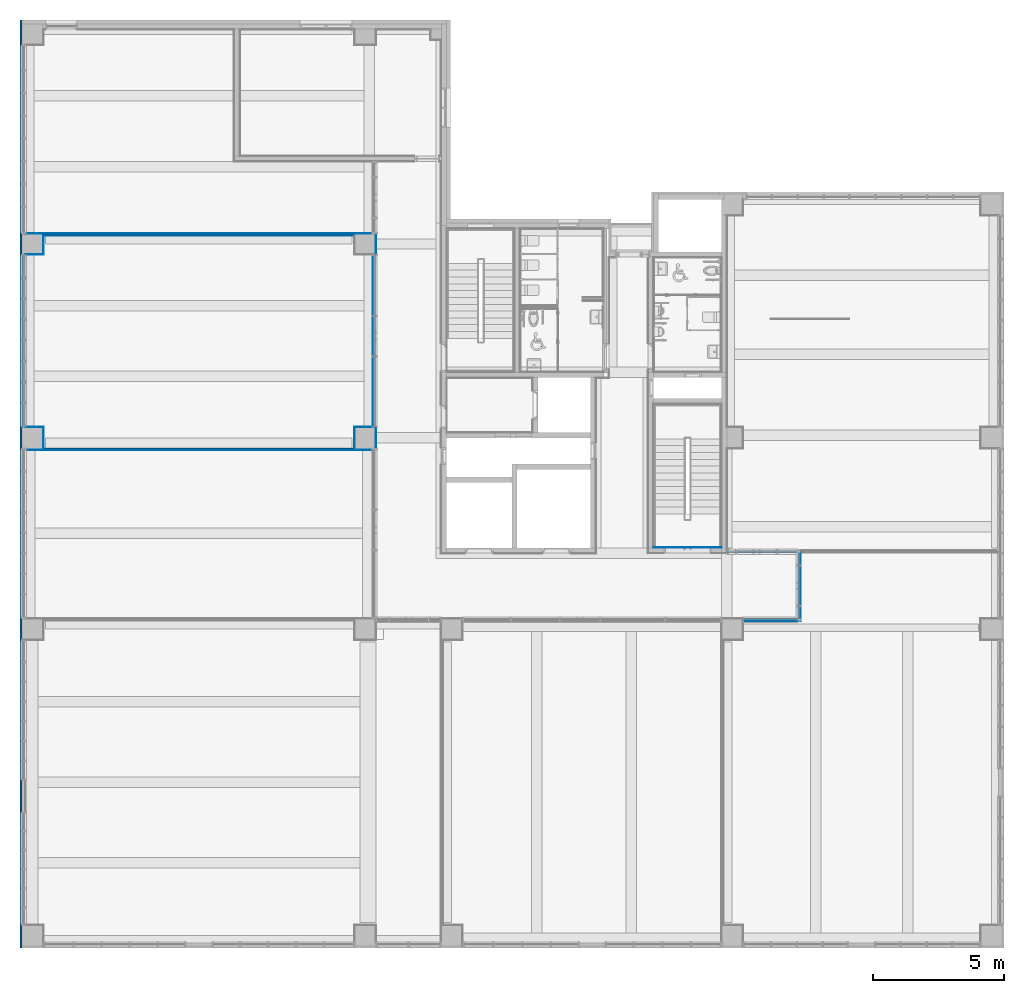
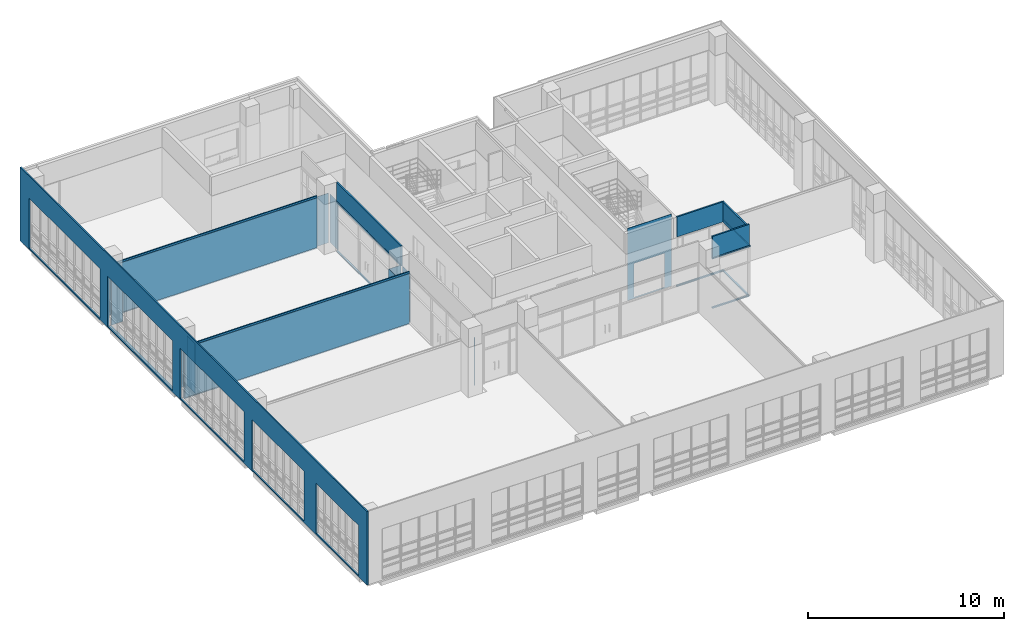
# One storey, part 49 of 74: 22 walls, 23 openings.
"""IFC2X3 building model written with IfcOpenShell, lengths in millimetres."""

from ifc_helpers import new_model, entity, si_unit, converted_unit, derived_unit, direction, frame, frame_2d, origin, origin_2d_with_axis, place, context, subcontext, project, spatial, polyline, rectangle, extrude, clip, bounded_halfspace, material, layer, layer_set, layer_usage, type_object, element, save


model = new_model("IFC2X3")

# Units and contexts
model_context = context("Model", 3, precision=0.01, world=origin(), true_north=direction((6.123031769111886e-17, 1.0)))
body_context = subcontext(model_context, "Body", "Model", "MODEL_VIEW")
ifc_project = project(units=[si_unit("LENGTHUNIT", "METRE", prefix="MILLI"), si_unit("AREAUNIT", "SQUARE_METRE"), si_unit("VOLUMEUNIT", "CUBIC_METRE"), converted_unit("PLANEANGLEUNIT", "DEGREE", entity("IfcRatioMeasure", 0.017453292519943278), si_unit("PLANEANGLEUNIT", "RADIAN"), dimensions=[0, 0, 0, 0, 0, 0, 0]), si_unit("MASSUNIT", "GRAM", prefix="KILO"), derived_unit("MASSDENSITYUNIT", [(si_unit("MASSUNIT", "GRAM", prefix="KILO"), 1), (si_unit("LENGTHUNIT", "METRE"), -3)]), derived_unit("MOMENTOFINERTIAUNIT", [(si_unit("LENGTHUNIT", "METRE"), 4)]), si_unit("TIMEUNIT", "SECOND"), si_unit("FREQUENCYUNIT", "HERTZ"), si_unit("THERMODYNAMICTEMPERATUREUNIT", "DEGREE_CELSIUS"), derived_unit("THERMALTRANSMITTANCEUNIT", [(si_unit("MASSUNIT", "GRAM", prefix="KILO"), 1), (si_unit("THERMODYNAMICTEMPERATUREUNIT", "KELVIN"), -1), (si_unit("TIMEUNIT", "SECOND"), -3)]), derived_unit("VOLUMETRICFLOWRATEUNIT", [(si_unit("LENGTHUNIT", "METRE"), 3), (si_unit("TIMEUNIT", "SECOND"), -1)]), derived_unit("MASSFLOWRATEUNIT", [(si_unit("MASSUNIT", "GRAM", prefix="KILO"), 1), (si_unit("TIMEUNIT", "SECOND"), -1)]), derived_unit("ROTATIONALFREQUENCYUNIT", [(si_unit("TIMEUNIT", "SECOND"), -1)]), si_unit("ELECTRICCURRENTUNIT", "AMPERE"), si_unit("ELECTRICVOLTAGEUNIT", "VOLT"), si_unit("POWERUNIT", "WATT"), si_unit("FORCEUNIT", "NEWTON", prefix="KILO"), si_unit("ILLUMINANCEUNIT", "LUX"), si_unit("LUMINOUSFLUXUNIT", "LUMEN"), si_unit("LUMINOUSINTENSITYUNIT", "CANDELA"), derived_unit("USERDEFINED", [(si_unit("MASSUNIT", "GRAM", prefix="KILO"), -1), (si_unit("LENGTHUNIT", "METRE"), -2), (si_unit("TIMEUNIT", "SECOND"), 3), (si_unit("LUMINOUSFLUXUNIT", "LUMEN"), 1)]), derived_unit("SOUNDPOWERUNIT", [(si_unit("MASSUNIT", "GRAM", prefix="KILO"), 1), (si_unit("LENGTHUNIT", "METRE"), 2), (si_unit("TIMEUNIT", "SECOND"), -3)]), derived_unit("SOUNDPRESSUREUNIT", [(si_unit("MASSUNIT", "GRAM", prefix="KILO"), 1), (si_unit("LENGTHUNIT", "METRE"), -1), (si_unit("TIMEUNIT", "SECOND"), -2)]), derived_unit("LINEARVELOCITYUNIT", [(si_unit("LENGTHUNIT", "METRE"), 1), (si_unit("TIMEUNIT", "SECOND"), -1)]), si_unit("PRESSUREUNIT", "PASCAL"), derived_unit("USERDEFINED", [(si_unit("LENGTHUNIT", "METRE"), -2), (si_unit("MASSUNIT", "GRAM", prefix="KILO"), 1), (si_unit("TIMEUNIT", "SECOND"), -2)]), derived_unit("LINEARFORCEUNIT", [(si_unit("MASSUNIT", "GRAM", prefix="KILO"), 1), (si_unit("LENGTHUNIT", "METRE"), 1), (si_unit("TIMEUNIT", "SECOND"), -2), (si_unit("LENGTHUNIT", "METRE"), -1)]), derived_unit("PLANARFORCEUNIT", [(si_unit("MASSUNIT", "GRAM", prefix="KILO"), 1), (si_unit("LENGTHUNIT", "METRE"), 1), (si_unit("TIMEUNIT", "SECOND"), -2), (si_unit("LENGTHUNIT", "METRE"), -2)])], contexts=[model_context])

# Site, building, storey
site_placement = place(None, frame((-14167.972527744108, -657.2125860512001, 0.0)))
site = spatial("IfcSite", under=ifc_project, at=site_placement, Name="Default", CompositionType="ELEMENT")
building_placement = place(site_placement, origin())
building = spatial("IfcBuilding", under=site, at=building_placement, Name="Sample Building", CompositionType="ELEMENT")
storey_placement = place(building_placement, frame((0.0, 0.0, 4800.0)))
storey = spatial("IfcBuildingStorey", under=building, at=storey_placement, Name="지상 2층", CompositionType="ELEMENT", Elevation=4800.000000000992)

# Wall, openings
ifc_material_1 = material(Name="KBIMS-화강석 잔다듬")
ifc_layer_1 = layer(ifc_material_1, 80.0)
ifc_layer_set_1 = layer_set([ifc_layer_1], Name="기본 벽:WA313-화강석잔다듬 벽 (30, 건식50) 80mm")
ifc_layer_usage_1 = layer_usage(ifc_layer_set_1, "AXIS2", "POSITIVE", -40.0)
wall_type_1 = type_object("IfcWallType", Name="기본 벽:WA313-화강석잔다듬 벽 (30, 건식50) 80mm", PredefinedType="STANDARD", material=ifc_layer_set_1)
wall_1_placement = place(storey_placement, frame((14027.955105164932, 35907.21229514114, -1.9340006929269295e-09), z_axis=(0.0, 0.0, 1.0), x_axis=(0.0, -1.0, 0.0)))
wall_1 = element("IfcWallStandardCase", 1, at=wall_1_placement, inside=storey, type_object=wall_type_1, material=ifc_layer_usage_1, Name="기본 벽:WA313-화강석잔다듬 벽 (30, 건식50) 80mm", ObjectType="기본 벽:WA313-화강석잔다듬 벽 (30, 건식50) 80mm", context=body_context, shape_type="SweptSolid", body=[
    extrude(rectangle(XDim=35430.00009999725, YDim=79.99999999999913, at=frame_2d((17715.000049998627, 6.217248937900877e-13), x_axis=(-1.0, 0.0))), origin(), (0.0, 0.0, 1.0), 4580.0000000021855),
])
opening_1_placement = place(wall_1_placement, origin())
element("IfcOpeningElement", 2, at=opening_1_placement, cuts=wall_1, Name="기본 벽:WA313-화강석잔다듬 벽 (30, 건식50) 80mm", ObjectType="Opening", context=body_context, shape_type="SweptSolid", body=[
    extrude(rectangle(XDim=3120.0000000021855, YDim=7209.999999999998, at=frame_2d((-5.684341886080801e-13, 0.0), x_axis=(1.0, 0.0))), frame((4545.0000199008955, -192.39999999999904, 1640.0), z_axis=(0.0, 1.0, 0.0), x_axis=(0.0, 0.0, 1.0)), (0.0, 0.0, 1.0), 384.79999999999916),
])
opening_2_placement = place(wall_1_placement, origin())
element("IfcOpeningElement", 3, at=opening_2_placement, cuts=wall_1, Name="기본 벽:WA313-화강석잔다듬 벽 (30, 건식50) 80mm", ObjectType="Opening", context=body_context, shape_type="SweptSolid", body=[
    extrude(rectangle(XDim=3120.0000000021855, YDim=6600.000000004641, at=frame_2d((-5.684341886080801e-13, 0.0), x_axis=(1.0, 0.0))), frame((12250.017403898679, -192.3999999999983, 1640.0), z_axis=(0.0, 1.0, 0.0), x_axis=(0.0, 0.0, 1.0)), (0.0, 0.0, 1.0), 384.79999999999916),
])
opening_3_placement = place(wall_1_placement, origin())
element("IfcOpeningElement", 4, at=opening_3_placement, cuts=wall_1, Name="기본 벽:WA313-화강석잔다듬 벽 (30, 건식50) 80mm", ObjectType="Opening", context=body_context, shape_type="SweptSolid", body=[
    extrude(rectangle(XDim=3120.0000000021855, YDim=6500.0, at=frame_2d((-5.684341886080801e-13, -2.0463630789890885e-12), x_axis=(1.0, 0.0))), frame((19600.0, -192.40000000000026, 1640.0), z_axis=(0.0, 1.0, 0.0), x_axis=(0.0, 0.0, 1.0)), (0.0, 0.0, 1.0), 384.79999999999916),
])
opening_4_placement = place(wall_1_placement, origin())
element("IfcOpeningElement", 5, at=opening_4_placement, cuts=wall_1, Name="기본 벽:WA313-화강석잔다듬 벽 (30, 건식50) 80mm", ObjectType="Opening", context=body_context, shape_type="SweptSolid", body=[
    extrude(rectangle(XDim=3120.0000000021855, YDim=5357.000032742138, at=frame_2d((-5.684341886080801e-13, 0.0), x_axis=(1.0, 0.0))), frame((26346.50000352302, -192.39999999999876, 1640.0), z_axis=(0.0, 1.0, 0.0), x_axis=(0.0, 0.0, 1.0)), (0.0, 0.0, 1.0), 384.79999999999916),
])
opening_5_placement = place(wall_1_placement, origin())
element("IfcOpeningElement", 6, at=opening_5_placement, cuts=wall_1, Name="기본 벽:WA313-화강석잔다듬 벽 (30, 건식50) 80mm", ObjectType="Opening", context=body_context, shape_type="SweptSolid", body=[
    extrude(rectangle(XDim=3120.0000000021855, YDim=4322.746367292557, at=frame_2d((-5.684341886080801e-13, 0.0), x_axis=(1.0, 0.0))), frame((32389.11081451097, -192.40000000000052, 1640.0), z_axis=(0.0, 1.0, 0.0), x_axis=(0.0, 0.0, 1.0)), (0.0, 0.0, 1.0), 384.79999999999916),
])

# Walls
ifc_material_2 = material(Name="KBIMS-DRY WALL")
ifc_layer_2 = layer(ifc_material_2, 12.5)
ifc_material_3 = material(Name="KBIMS-경량철골벽틀")
ifc_layer_3 = layer(ifc_material_3, 50.0)
ifc_layer_set_2 = layer_set([ifc_layer_2, ifc_layer_3], Name="기본 벽:WA731-DRY WALL(C50, GS12.5mm) (1겹한면, GW50mm) 62.5mm")
ifc_layer_usage_2 = layer_usage(ifc_layer_set_2, "AXIS2", "NEGATIVE", 31.250000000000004)
wall_type_2 = type_object("IfcWallType", Name="기본 벽:WA731-DRY WALL(C50, GS12.5mm) (1겹한면, GW50mm) 62.5mm", PredefinedType="STANDARD", material=ifc_layer_set_2)
wall_2_placement = place(storey_placement, frame((14867.972454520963, 27725.962586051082, -1.9334592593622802e-09)))
element("IfcWallStandardCase", 7, at=wall_2_placement, inside=storey, type_object=wall_type_2, material=ifc_layer_usage_2, Name="기본 벽:WA731-DRY WALL(C50, GS12.5mm) (1겹한면, GW50mm) 62.5mm", ObjectType="기본 벽:WA731-DRY WALL(C50, GS12.5mm) (1겹한면, GW50mm) 62.5mm", context=body_context, shape_type="SweptSolid", body=[
    extrude(rectangle(XDim=11900.000036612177, YDim=62.49999999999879, at=frame_2d((5950.000018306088, 2.1653789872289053e-12), x_axis=(-1.0, 0.0))), origin(), (0.0, 0.0, 1.0), 3300.000000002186),
])
ifc_layer_usage_3 = layer_usage(ifc_layer_set_2, "AXIS2", "NEGATIVE", 31.250000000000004)
wall_3_placement = place(storey_placement, frame((14192.972570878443, 19525.927624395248, -1.9334592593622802e-09)))
element("IfcWallStandardCase", 8, at=wall_3_placement, inside=storey, type_object=wall_type_2, material=ifc_layer_usage_3, Name="기본 벽:WA731-DRY WALL(C50, GS12.5mm) (1겹한면, GW50mm) 62.5mm", ObjectType="기본 벽:WA731-DRY WALL(C50, GS12.5mm) (1겹한면, GW50mm) 62.5mm", context=body_context, shape_type="SweptSolid", body=[
    extrude(rectangle(XDim=13284.99992025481, YDim=62.499999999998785, at=frame_2d((6642.499960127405, 1.1866063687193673e-12), x_axis=(-1.0, 0.0))), origin(), (0.0, 0.0, 1.0), 3300.000000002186),
])

# Wall, openings
ifc_material_4 = material(Name="KBIMS-시멘트 벽돌")
ifc_layer_4 = layer(ifc_material_4, 90.0)
ifc_layer_set_3 = layer_set([ifc_layer_4], Name="기본 벽:WA211-시멘트벽돌(일반) 벽 (0.5B) 90mm")
ifc_layer_usage_4 = layer_usage(ifc_layer_set_3, "AXIS2", "NEGATIVE", 45.0)
wall_type_3 = type_object("IfcWallType", Name="기본 벽:WA211-시멘트벽돌(일반) 벽 (0.5B) 90mm", PredefinedType="STANDARD", material=ifc_layer_set_3)
wall_4_placement = place(storey_placement, frame((27522.955105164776, 26957.21230799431, -1.9340006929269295e-09), z_axis=(0.0, 0.0, 1.0), x_axis=(0.0, -1.0, 0.0)))
wall_4 = element("IfcWallStandardCase", 9, at=wall_4_placement, inside=storey, type_object=wall_type_3, material=ifc_layer_usage_4, Name="기본 벽:WA211-시멘트벽돌(일반) 벽 (0.5B) 90mm", ObjectType="기본 벽:WA211-시멘트벽돌(일반) 벽 (0.5B) 90mm", context=body_context, shape_type="Clipping", body=[
    clip(extrude(rectangle(XDim=6599.999999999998, YDim=90.0000000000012, at=frame_2d((3299.999999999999, -1.9682033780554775e-12), x_axis=(-1.0, 0.0))), origin(), (0.0, 0.0, 1.0), 4350.000000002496), bounded_halfspace(frame((0.0, -45.0, 4350.0), z_axis=(0.0, 0.0, -1.0), x_axis=(0.0, 1.0, 0.0)), True, frame((0.0, -45.0, 4350.0), z_axis=(0.0, 0.0, -1.0), x_axis=(0.0, 1.0, 0.0)), polyline([(0.0, 0.0), (27432.0, 0.0), (27432.0, 2011680.0), (-2.6400300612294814e-09, 2011680.0), (0.0, 0.0)]))),
])
opening_6_placement = place(wall_4_placement, origin())
element("IfcOpeningElement", 10, at=opening_6_placement, cuts=wall_4, Name="기본 벽:WA211-시멘트벽돌(일반) 벽 (0.5B) 90mm", ObjectType="Opening", context=body_context, shape_type="SweptSolid", body=[
    extrude(rectangle(XDim=3020.000000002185, YDim=6599.999999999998, at=origin_2d_with_axis()), frame((3300.0, -197.4000000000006, 1590.0), z_axis=(0.0, 1.0, 0.0), x_axis=(0.0, 0.0, 1.0)), (0.0, 0.0, 1.0), 394.8000000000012),
])
opening_7_placement = place(wall_4_placement, origin())
element("IfcOpeningElement", 11, at=opening_7_placement, cuts=wall_4, Name="기본 벽:WA211-시멘트벽돌(일반) 벽 (0.5B) 90mm", ObjectType="Opening", context=body_context, shape_type="SweptSolid", body=[
    extrude(rectangle(XDim=3020.000000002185, YDim=6500.0, at=frame_2d((0.0, 2.0463630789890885e-12), x_axis=(1.0, 0.0))), frame((10650.0, -197.40000000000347, 1590.0), z_axis=(0.0, 1.0, 0.0), x_axis=(0.0, 0.0, 1.0)), (0.0, 0.0, 1.0), 394.8000000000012),
])
opening_8_placement = place(wall_4_placement, origin())
element("IfcOpeningElement", 12, at=opening_8_placement, cuts=wall_4, Name="기본 벽:WA211-시멘트벽돌(일반) 벽 (0.5B) 90mm", ObjectType="Opening", context=body_context, shape_type="SweptSolid", body=[
    extrude(rectangle(XDim=3020.000000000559, YDim=2749.9996891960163, at=frame_2d((0.0, -2.1600499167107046e-12), x_axis=(1.0, 0.0))), frame((-2175.0001226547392, -197.40000000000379, 1590.0), z_axis=(0.0, 1.0, 0.0), x_axis=(0.0, 0.0, 1.0)), (0.0, 0.0, 1.0), 394.8000000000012),
])

ifc_layer_usage_5 = layer_usage(ifc_layer_set_3, "AXIS2", "NEGATIVE", 45.0)
wall_5_placement = place(storey_placement, frame((41567.97249113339, 13012.19487839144, -1.9340006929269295e-09)))
wall_5 = element("IfcWallStandardCase", 13, at=wall_5_placement, inside=storey, type_object=wall_type_3, material=ifc_layer_usage_5, Name="기본 벽:WA211-시멘트벽돌(일반) 벽 (0.5B) 90mm", ObjectType="기본 벽:WA211-시멘트벽돌(일반) 벽 (0.5B) 90mm", context=body_context, shape_type="SweptSolid", body=[
    extrude(rectangle(XDim=2199.999999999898, YDim=89.99999999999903, at=frame_2d((1099.999999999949, 1.0906830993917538e-12), x_axis=(-1.0, 0.0))), origin(), (0.0, 0.0, 1.0), 4500.0000000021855),
])
opening_9_placement = place(wall_5_placement, origin())
element("IfcOpeningElement", 14, at=opening_9_placement, cuts=wall_5, Name="기본 벽:WA211-시멘트벽돌(일반) 벽 (0.5B) 90mm", ObjectType="Opening", context=body_context, shape_type="SweptSolid", body=[
    extrude(rectangle(XDim=3020.000000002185, YDim=2217.999999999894, at=origin_2d_with_axis()), frame((1109.0, -197.39999999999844, 1590.0), z_axis=(0.0, 1.0, 0.0), x_axis=(0.0, 0.0, 1.0)), (0.0, 0.0, 1.0), 394.79999999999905),
])
opening_10_placement = place(wall_5_placement, origin())
element("IfcOpeningElement", 15, at=opening_10_placement, cuts=wall_5, Name="기본 벽:WA211-시멘트벽돌(일반) 벽 (0.5B) 90mm", ObjectType="Opening", context=body_context, shape_type="SweptSolid", body=[
    extrude(rectangle(XDim=3020.000000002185, YDim=2499.9747997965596, at=frame_2d((-2.1600499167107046e-12, 0.0), x_axis=(0.0, 1.0))), frame((-12750.004776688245, -197.4000000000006, 1590.0), z_axis=(0.0, 1.0, 0.0), x_axis=(-1.0, 0.0, 0.0)), (0.0, 0.0, 1.0), 394.79999999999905),
])
opening_11_placement = place(wall_5_placement, origin())
element("IfcOpeningElement", 16, at=opening_11_placement, cuts=wall_5, Name="기본 벽:WA211-시멘트벽돌(일반) 벽 (0.5B) 90mm", ObjectType="Opening", context=body_context, shape_type="SweptSolid", body=[
    extrude(rectangle(XDim=3020.000000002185, YDim=9899.999999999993, at=origin_2d_with_axis()), frame((-5750.0, -197.4000000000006, 1590.0), z_axis=(0.0, 1.0, 0.0), x_axis=(0.0, 0.0, 1.0)), (0.0, 0.0, 1.0), 394.79999999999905),
])

# Wall, opening
ifc_layer_usage_6 = layer_usage(ifc_layer_set_3, "AXIS2", "POSITIVE", -45.0)
wall_6_placement = place(storey_placement, frame((43762.972491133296, 15607.177678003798, -1.9340006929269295e-09), z_axis=(0.0, 0.0, 1.0), x_axis=(-1.0, 0.0, 0.0)))
wall_6 = element("IfcWallStandardCase", 17, at=wall_6_placement, inside=storey, type_object=wall_type_3, material=ifc_layer_usage_6, Name="기본 벽:WA211-시멘트벽돌(일반) 벽 (0.5B) 90mm", ObjectType="기본 벽:WA211-시멘트벽돌(일반) 벽 (0.5B) 90mm", context=body_context, shape_type="Clipping", body=[
    clip(extrude(rectangle(XDim=2795.0086929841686, YDim=89.99999999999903, at=frame_2d((1397.5043464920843, 1.0835776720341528e-12), x_axis=(-1.0, 0.0))), origin(), (0.0, 0.0, 1.0), 4350.000000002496), bounded_halfspace(frame((0.0, -45.0, 4350.0), z_axis=(0.0, 0.0, -1.0), x_axis=(0.0, 1.0, 0.0)), True, frame((0.0, -45.0, 4350.0), z_axis=(0.0, 0.0, -1.0), x_axis=(0.0, 1.0, 0.0)), polyline([(0.0, 0.0), (27432.0, 0.0), (27432.0, 25908.0), (27432.0, 851918.6496215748), (-4.911885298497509e-09, 851918.6496215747), (0.0, 0.0)]))),
])
opening_12_placement = place(wall_6_placement, origin())
element("IfcOpeningElement", 18, at=opening_12_placement, cuts=wall_6, Name="기본 벽:WA211-시멘트벽돌(일반) 벽 (0.5B) 90mm", ObjectType="Opening", context=body_context, shape_type="SweptSolid", body=[
    extrude(rectangle(XDim=3020.000000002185, YDim=2818.0086929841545, at=origin_2d_with_axis()), frame((1386.0043464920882, -197.39999999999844, 1590.0), z_axis=(0.0, 1.0, 0.0), x_axis=(0.0, 0.0, 1.0)), (0.0, 0.0, 1.0), 394.79999999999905),
])

ifc_layer_usage_7 = layer_usage(ifc_layer_set_3, "AXIS2", "NEGATIVE", 45.0)
wall_7_placement = place(storey_placement, frame((43722.97249113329, 13057.19487839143, -1.9340006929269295e-09), z_axis=(0.0, 0.0, 1.0), x_axis=(0.0, 1.0, 0.0)))
wall_7 = element("IfcWallStandardCase", 19, at=wall_7_placement, inside=storey, type_object=wall_type_3, material=ifc_layer_usage_7, Name="기본 벽:WA211-시멘트벽돌(일반) 벽 (0.5B) 90mm", ObjectType="기본 벽:WA211-시멘트벽돌(일반) 벽 (0.5B) 90mm", context=body_context, shape_type="Clipping", body=[
    clip(extrude(rectangle(XDim=2504.982799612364, YDim=89.99999999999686, at=frame_2d((1252.4913998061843, 0.0), x_axis=(-1.0, 0.0))), origin(), (0.0, 0.0, 1.0), 4350.000000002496), bounded_halfspace(frame((0.0, -45.0, 4350.0), z_axis=(0.0, 0.0, -1.0), x_axis=(-1.0, 0.0, 0.0)), True, frame((0.0, -45.0, 4350.0), z_axis=(0.0, 0.0, -1.0), x_axis=(-1.0, 0.0, 0.0)), polyline([(0.0, 0.0), (0.0, 27432.0), (-763518.7573218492, 27432.0), (-763518.7573218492, 1524.0), (-763518.7573218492, -2.0357902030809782e-09), (0.0, 0.0)]))),
])
opening_13_placement = place(wall_7_placement, origin())
element("IfcOpeningElement", 20, at=opening_13_placement, cuts=wall_7, Name="기본 벽:WA211-시멘트벽돌(일반) 벽 (0.5B) 90mm", ObjectType="Opening", context=body_context, shape_type="SweptSolid", body=[
    extrude(rectangle(XDim=3020.000000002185, YDim=2720.9827996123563, at=origin_2d_with_axis()), frame((1252.4913998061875, -197.39999999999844, 1590.0), z_axis=(0.0, 1.0, 0.0), x_axis=(0.0, 0.0, 1.0)), (0.0, 0.0, 1.0), 394.7999999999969),
])

ifc_material_5 = material(Name="KBIMS-콘크리트")
ifc_layer_5 = layer(ifc_material_5, 125.00000000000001)
ifc_layer_set_4 = layer_set([ifc_layer_5], Name="기본 벽:WA111-철근콘크리트구조 벽 125mm_W3")
ifc_layer_usage_8 = layer_usage(ifc_layer_set_4, "AXIS2", "POSITIVE", -62.50000000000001)
wall_type_4 = type_object("IfcWallType", Name="기본 벽:WA111-철근콘크리트구조 벽 125mm_W3", PredefinedType="STANDARD", material=ifc_layer_set_4)
wall_8_placement = place(storey_placement, frame((14130.47257087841, 20357.19489124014, -1.9340006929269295e-09), z_axis=(0.0, 0.0, 1.0), x_axis=(0.0, 1.0, 0.0)))
wall_8 = element("IfcWallStandardCase", 21, at=wall_8_placement, inside=storey, type_object=wall_type_4, material=ifc_layer_usage_8, Name="기본 벽:WA111-철근콘크리트구조 벽 125mm_W3", ObjectType="기본 벽:WA111-철근콘크리트구조 벽 125mm_W3", context=body_context, shape_type="Clipping", body=[
    clip(extrude(rectangle(XDim=6600.017416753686, YDim=124.99999999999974, at=frame_2d((3300.008708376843, 1.0835776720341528e-12), x_axis=(-1.0, 0.0))), origin(), (0.0, 0.0, 1.0), 4350.000000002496), bounded_halfspace(frame((0.0, -62.49999999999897, 4350.0), z_axis=(0.0, 0.0, -1.0), x_axis=(0.0, -1.0, 0.0)), True, frame((0.0, -62.49999999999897, 4350.0), z_axis=(0.0, 0.0, -1.0), x_axis=(0.0, -1.0, 0.0)), polyline([(0.0, 0.0), (-38100.0, 0.0), (-38100.0, -2011685.3086265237), (0.0, -2011685.3086265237), (0.0, 0.0)]))),
])
opening_14_placement = place(wall_8_placement, origin())
element("IfcOpeningElement", 22, at=opening_14_placement, cuts=wall_8, Name="기본 벽:WA111-철근콘크리트구조 벽 125mm_W3", ObjectType="Opening", context=body_context, shape_type="SweptSolid", body=[
    extrude(rectangle(XDim=3120.0000000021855, YDim=6600.000000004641, at=frame_2d((0.0, -5.684341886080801e-13), x_axis=(0.0, 1.0))), frame((3300.0, -214.89999999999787, 1640.0), z_axis=(0.0, 1.0, 0.0), x_axis=(-1.0, 0.0, 0.0)), (0.0, 0.0, 1.0), 429.7999999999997),
])

# Wall, openings
ifc_material_6 = material(Name="WA611-수성페인트 (내부) 벽 (3회)")
ifc_layer_6 = layer(ifc_material_6, 1.0)
ifc_material_7 = material(Name="WA551-시멘트모르타르 (내부) 벽 18mm")
ifc_layer_7 = layer(ifc_material_7, 16.0)
ifc_material_8 = material(Name="WA555-콘크리트면정리 벽 (내부)")
ifc_layer_8 = layer(ifc_material_8, 1.0)
ifc_layer_set_5 = layer_set([ifc_layer_6, ifc_layer_7, ifc_layer_8], Name="기본 벽:A1-32-06A-콘크리트면정리, 시멘트모르타르(미장용), 수성페인트(내부) (18mm)")
ifc_layer_usage_9 = layer_usage(ifc_layer_set_5, "AXIS2", "POSITIVE", -9.000000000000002)
wall_type_5 = type_object("IfcWallType", Name="기본 벽:A1-32-06A-콘크리트면정리, 시멘트모르타르(미장용), 수성페인트(내부) (18mm)", PredefinedType="STANDARD", material=ifc_layer_set_5)
wall_9_placement = place(storey_placement, frame((40767.97247138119, 15766.212295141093, 0.0), z_axis=(0.0, 0.0, 1.0), x_axis=(-1.0, 0.0, 0.0)))
wall_9 = element("IfcWallStandardCase", 23, at=wall_9_placement, inside=storey, type_object=wall_type_5, material=ifc_layer_usage_9, Name="기본 벽:A1-32-06A-콘크리트면정리, 시멘트모르타르(미장용), 수성페인트(내부) (18mm)", ObjectType="기본 벽:A1-32-06A-콘크리트면정리, 시멘트모르타르(미장용), 수성페인트(내부) (18mm)", context=body_context, shape_type="SweptSolid", body=[
    extrude(rectangle(XDim=2582.0086732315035, YDim=18.000000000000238, at=frame_2d((1291.0043366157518, 0.0), x_axis=(-1.0, 0.0))), origin(), (0.0, 0.0, 1.0), 4500.000000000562),
])
opening_15_placement = place(wall_9_placement, origin())
element("IfcOpeningElement", 24, at=opening_15_placement, cuts=wall_9, Name="기본 벽:A1-32-06A-콘크리트면정리, 시멘트모르타르(미장용), 수성페인트(내부) (18mm)", ObjectType="Opening", context=body_context, shape_type="SweptSolid", body=[
    extrude(rectangle(XDim=2099.999999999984, YDim=1800.0000000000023, at=frame_2d((0.0, -2.1600499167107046e-12), x_axis=(1.0, 0.0))), frame((1300.0086732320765, -1315.0, 1130.0), z_axis=(0.0, 1.0, 0.0), x_axis=(0.0, 0.0, 1.0)), (0.0, 0.0, 1.0), 3048.0),
])
opening_16_placement = place(wall_9_placement, origin())
element("IfcOpeningElement", 25, at=opening_16_placement, cuts=wall_9, Name="기본 벽:A1-32-06A-콘크리트면정리, 시멘트모르타르(미장용), 수성페인트(내부) (18mm)", ObjectType="Opening", context=body_context, shape_type="SweptSolid", body=[
    extrude(rectangle(XDim=3020.000000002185, YDim=2818.0086929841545, at=origin_2d_with_axis()), frame((-1608.995673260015, -161.40000000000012, 1590.0), z_axis=(0.0, 1.0, 0.0), x_axis=(0.0, 0.0, 1.0)), (0.0, 0.0, 1.0), 322.80000000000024),
])

# Walls
ifc_layer_usage_10 = layer_usage(ifc_layer_set_5, "AXIS2", "NEGATIVE", 9.000000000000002)
wall_10_placement = place(storey_placement, frame((14210.972570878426, 27766.21230799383, 80.0)))
element("IfcWallStandardCase", 26, at=wall_10_placement, inside=storey, type_object=wall_type_5, material=ifc_layer_usage_10, Name="기본 벽:A1-32-06A-콘크리트면정리, 시멘트모르타르(미장용), 수성페인트(내부) (18mm)", ObjectType="기본 벽:A1-32-06A-콘크리트면정리, 시멘트모르타르(미장용), 수성페인트(내부) (18mm)", context=body_context, shape_type="SweptSolid", body=[
    extrude(rectangle(XDim=13249.007743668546, YDim=18.00000000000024, at=frame_2d((6624.503871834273, -2.3296919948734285e-12), x_axis=(-1.0, 0.0))), origin(), (0.0, 0.0, 1.0), 3100.0000000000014),
])
ifc_layer_usage_11 = layer_usage(ifc_layer_set_5, "AXIS2", "NEGATIVE", 9.000000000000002)
wall_11_placement = place(storey_placement, frame((26749.972491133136, 27685.71230799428, 80.0), z_axis=(0.0, 0.0, 1.0), x_axis=(-1.0, 0.0, 0.0)))
element("IfcWallStandardCase", 27, at=wall_11_placement, inside=storey, type_object=wall_type_5, material=ifc_layer_usage_11, Name="기본 벽:A1-32-06A-콘크리트면정리, 시멘트모르타르(미장용), 수성페인트(내부) (18mm)", ObjectType="기본 벽:A1-32-06A-콘크리트면정리, 시멘트모르타르(미장용), 수성페인트(내부) (18mm)", context=body_context, shape_type="SweptSolid", body=[
    extrude(rectangle(XDim=11882.000036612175, YDim=18.00000000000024, at=frame_2d((5941.000018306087, -2.1662671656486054e-12), x_axis=(-1.0, 0.0))), origin(), (0.0, 0.0, 1.0), 3100.0000000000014),
])
ifc_layer_usage_12 = layer_usage(ifc_layer_set_5, "AXIS2", "NEGATIVE", 9.000000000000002)
wall_12_placement = place(storey_placement, frame((14876.972454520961, 27676.71230799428, 80.0), z_axis=(0.0, 0.0, 1.0), x_axis=(0.0, -1.0, 0.0)))
element("IfcWallStandardCase", 28, at=wall_12_placement, inside=storey, type_object=wall_type_5, material=ifc_layer_usage_12, Name="기본 벽:A1-32-06A-콘크리트면정리, 시멘트모르타르(미장용), 수성페인트(내부) (18mm)", ObjectType="기본 벽:A1-32-06A-콘크리트면정리, 시멘트모르타르(미장용), 수성페인트(내부) (18mm)", context=body_context, shape_type="SweptSolid", body=[
    extrude(rectangle(XDim=737.5000000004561, YDim=18.000000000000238, at=frame_2d((368.75000000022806, 0.0), x_axis=(-1.0, 0.0))), origin(), (0.0, 0.0, 1.0), 3100.0000000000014),
])
ifc_layer_usage_13 = layer_usage(ifc_layer_set_5, "AXIS2", "NEGATIVE", 9.000000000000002)
wall_13_placement = place(storey_placement, frame((14867.972454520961, 26948.21230799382, 80.0), z_axis=(0.0, 0.0, 1.0), x_axis=(-1.0, 0.0, 0.0)))
element("IfcWallStandardCase", 29, at=wall_13_placement, inside=storey, type_object=wall_type_5, material=ifc_layer_usage_13, Name="기본 벽:A1-32-06A-콘크리트면정리, 시멘트모르타르(미장용), 수성페인트(내부) (18mm)", ObjectType="기본 벽:A1-32-06A-콘크리트면정리, 시멘트모르타르(미장용), 수성페인트(내부) (18mm)", context=body_context, shape_type="SweptSolid", body=[
    extrude(rectangle(XDim=674.9998836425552, YDim=18.00000000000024, at=frame_2d((337.4999418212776, -2.1662671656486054e-12), x_axis=(-1.0, 0.0))), origin(), (0.0, 0.0, 1.0), 3100.0000000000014),
])
ifc_layer_usage_14 = layer_usage(ifc_layer_set_5, "AXIS2", "NEGATIVE", 9.000000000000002)
wall_14_placement = place(storey_placement, frame((26758.972491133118, 19557.177624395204, 80.0), z_axis=(0.0, 0.0, 1.0), x_axis=(0.0, 1.0, 0.0)))
element("IfcWallStandardCase", 30, at=wall_14_placement, inside=storey, type_object=wall_type_5, material=ifc_layer_usage_14, Name="기본 벽:A1-32-06A-콘크리트면정리, 시멘트모르타르(미장용), 수성페인트(내부) (18mm)", ObjectType="기본 벽:A1-32-06A-콘크리트면정리, 시멘트모르타르(미장용), 수성페인트(내부) (18mm)", context=body_context, shape_type="SweptSolid", body=[
    extrude(rectangle(XDim=818.0346835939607, YDim=18.00000000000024, at=frame_2d((409.01734179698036, -2.1662671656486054e-12), x_axis=(-1.0, 0.0))), origin(), (0.0, 0.0, 1.0), 3100.0000000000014),
])
ifc_layer_usage_15 = layer_usage(ifc_layer_set_5, "AXIS2", "NEGATIVE", 9.000000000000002)
wall_15_placement = place(storey_placement, frame((26767.972491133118, 20366.212307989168, 80.0)))
element("IfcWallStandardCase", 31, at=wall_15_placement, inside=storey, type_object=wall_type_5, material=ifc_layer_usage_15, Name="기본 벽:A1-32-06A-콘크리트면정리, 시멘트모르타르(미장용), 수성페인트(내부) (18mm)", ObjectType="기본 벽:A1-32-06A-콘크리트면정리, 시멘트모르타르(미장용), 수성페인트(내부) (18mm)", context=body_context, shape_type="SweptSolid", body=[
    extrude(rectangle(XDim=709.982614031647, YDim=18.00000000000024, at=frame_2d((354.9913070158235, -2.1662671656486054e-12), x_axis=(-1.0, 0.0))), origin(), (0.0, 0.0, 1.0), 3100.0000000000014),
])

# Wall, openings
ifc_layer_usage_16 = layer_usage(ifc_layer_set_5, "AXIS2", "NEGATIVE", 9.000000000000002)
wall_16_placement = place(storey_placement, frame((27469.06176345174, 20375.212307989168, 3100.0), z_axis=(0.0, 0.0, 1.0), x_axis=(0.0, 1.0, 0.0)))
wall_16 = element("IfcWallStandardCase", 32, at=wall_16_placement, inside=storey, type_object=wall_type_5, material=ifc_layer_usage_16, Name="기본 벽:A1-32-06A-콘크리트면정리, 시멘트모르타르(미장용), 수성페인트(내부) (18mm)", ObjectType="기본 벽:A1-32-06A-콘크리트면정리, 시멘트모르타르(미장용), 수성페인트(내부) (18mm)", context=body_context, shape_type="SweptSolid", body=[
    extrude(rectangle(XDim=6564.000000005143, YDim=18.00000000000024, at=frame_2d((3282.0000000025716, -1.6724399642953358e-12), x_axis=(1.0, 0.0))), origin(), (0.0, 0.0, 1.0), 79.99999999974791),
])
opening_17_placement = place(wall_16_placement, origin())
element("IfcOpeningElement", 33, at=opening_17_placement, cuts=wall_16, Name="기본 벽:A1-32-06A-콘크리트면정리, 시멘트모르타르(미장용), 수성페인트(내부) (18mm)", ObjectType="Opening", context=body_context, shape_type="SweptSolid", body=[
    extrude(rectangle(XDim=3020.000000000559, YDim=2749.9996891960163, at=frame_2d((2.1600499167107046e-12, 0.0), x_axis=(0.0, 1.0))), frame((8757.000122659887, -161.40000000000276, -1510.0), z_axis=(0.0, 1.0, 0.0), x_axis=(-1.0, 0.0, 0.0)), (0.0, 0.0, 1.0), 322.80000000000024),
])
opening_18_placement = place(wall_16_placement, origin())
element("IfcOpeningElement", 34, at=opening_18_placement, cuts=wall_16, Name="기본 벽:A1-32-06A-콘크리트면정리, 시멘트모르타르(미장용), 수성페인트(내부) (18mm)", ObjectType="Opening", context=body_context, shape_type="SweptSolid", body=[
    extrude(rectangle(XDim=3020.000000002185, YDim=6499.999999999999, at=frame_2d((0.0, 0.0), x_axis=(0.0, 1.0))), frame((-4068.0, -161.40000000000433, -1510.0), z_axis=(0.0, 1.0, 0.0), x_axis=(-1.0, 0.0, 0.0)), (0.0, 0.0, 1.0), 322.80000000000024),
])
opening_19_placement = place(wall_16_placement, origin())
element("IfcOpeningElement", 35, at=opening_19_placement, cuts=wall_16, Name="기본 벽:A1-32-06A-콘크리트면정리, 시멘트모르타르(미장용), 수성페인트(내부) (18mm)", ObjectType="Opening", context=body_context, shape_type="SweptSolid", body=[
    extrude(rectangle(XDim=3020.000000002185, YDim=6599.999999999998, at=frame_2d((0.0, 0.0), x_axis=(0.0, 1.0))), frame((3282.0, -161.40000000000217, -1510.0), z_axis=(0.0, 1.0, 0.0), x_axis=(-1.0, 0.0, 0.0)), (0.0, 0.0, 1.0), 322.80000000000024),
])

# Wall
ifc_layer_usage_17 = layer_usage(ifc_layer_set_5, "AXIS2", "POSITIVE", -9.000000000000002)
wall_17_placement = place(storey_placement, frame((14230.472570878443, 19485.677624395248, 80.0)))
element("IfcWallStandardCase", 36, at=wall_17_placement, inside=storey, type_object=wall_type_5, material=ifc_layer_usage_17, Name="기본 벽:A1-32-06A-콘크리트면정리, 시멘트모르타르(미장용), 수성페인트(내부) (18mm)", ObjectType="기본 벽:A1-32-06A-콘크리트면정리, 시멘트모르타르(미장용), 수성페인트(내부) (18mm)", context=body_context, shape_type="SweptSolid", body=[
    extrude(rectangle(XDim=13247.49992025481, YDim=18.00000000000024, at=frame_2d((6623.749960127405, -2.327027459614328e-13), x_axis=(-1.0, 0.0))), origin(), (0.0, 0.0, 1.0), 3100.0000000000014),
])

# Wall, openings
ifc_layer_usage_18 = layer_usage(ifc_layer_set_5, "AXIS2", "POSITIVE", -9.000000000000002)
wall_18_placement = place(storey_placement, frame((41585.972491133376, 12958.194878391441, 3100.0)))
wall_18 = element("IfcWallStandardCase", 37, at=wall_18_placement, inside=storey, type_object=wall_type_5, material=ifc_layer_usage_18, Name="기본 벽:A1-32-06A-콘크리트면정리, 시멘트모르타르(미장용), 수성페인트(내부) (18mm)", ObjectType="기본 벽:A1-32-06A-콘크리트면정리, 시멘트모르타르(미장용), 수성페인트(내부) (18mm)", context=body_context, shape_type="SweptSolid", body=[
    extrude(rectangle(XDim=2199.9999999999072, YDim=18.000000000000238, at=frame_2d((1099.9999999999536, 0.0), x_axis=(1.0, 0.0))), origin(), (0.0, 0.0, 1.0), 79.99999999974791),
])
opening_20_placement = place(wall_18_placement, origin())
element("IfcOpeningElement", 38, at=opening_20_placement, cuts=wall_18, Name="기본 벽:A1-32-06A-콘크리트면정리, 시멘트모르타르(미장용), 수성페인트(내부) (18mm)", ObjectType="Opening", context=body_context, shape_type="SweptSolid", body=[
    extrude(rectangle(XDim=3020.000000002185, YDim=2217.999999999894, at=origin_2d_with_axis()), frame((1091.0, -161.40000000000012, -1510.0), z_axis=(0.0, 1.0, 0.0), x_axis=(0.0, 0.0, 1.0)), (0.0, 0.0, 1.0), 322.80000000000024),
])
opening_21_placement = place(wall_18_placement, origin())
element("IfcOpeningElement", 39, at=opening_21_placement, cuts=wall_18, Name="기본 벽:A1-32-06A-콘크리트면정리, 시멘트모르타르(미장용), 수성페인트(내부) (18mm)", ObjectType="Opening", context=body_context, shape_type="SweptSolid", body=[
    extrude(rectangle(XDim=3020.000000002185, YDim=2499.9747997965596, at=frame_2d((-2.1600499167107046e-12, 0.0), x_axis=(0.0, 1.0))), frame((-12768.004776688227, -161.40000000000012, -1510.0), z_axis=(0.0, 1.0, 0.0), x_axis=(-1.0, 0.0, 0.0)), (0.0, 0.0, 1.0), 322.80000000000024),
])
opening_22_placement = place(wall_18_placement, origin())
element("IfcOpeningElement", 40, at=opening_22_placement, cuts=wall_18, Name="기본 벽:A1-32-06A-콘크리트면정리, 시멘트모르타르(미장용), 수성페인트(내부) (18mm)", ObjectType="Opening", context=body_context, shape_type="SweptSolid", body=[
    extrude(rectangle(XDim=3020.000000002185, YDim=9899.999999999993, at=origin_2d_with_axis()), frame((-5768.0, -161.40000000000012, -1510.0), z_axis=(0.0, 1.0, 0.0), x_axis=(0.0, 0.0, 1.0)), (0.0, 0.0, 1.0), 322.80000000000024),
])

# Wall, opening
ifc_layer_usage_19 = layer_usage(ifc_layer_set_5, "AXIS2", "POSITIVE", -9.000000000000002)
wall_19_placement = place(storey_placement, frame((43776.97249113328, 12967.194878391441, 3100.0), z_axis=(0.0, 0.0, 1.0), x_axis=(0.0, 1.0, 0.0)))
wall_19 = element("IfcWallStandardCase", 41, at=wall_19_placement, inside=storey, type_object=wall_type_5, material=ifc_layer_usage_19, Name="기본 벽:A1-32-06A-콘크리트면정리, 시멘트모르타르(미장용), 수성페인트(내부) (18mm)", ObjectType="기본 벽:A1-32-06A-콘크리트면정리, 시멘트모르타르(미장용), 수성페인트(내부) (18mm)", context=body_context, shape_type="SweptSolid", body=[
    extrude(rectangle(XDim=2622.482799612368, YDim=17.999999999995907, at=frame_2d((1311.241399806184, 0.0), x_axis=(1.0, 0.0))), origin(), (0.0, 0.0, 1.0), 79.99999999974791),
])
opening_23_placement = place(wall_19_placement, origin())
element("IfcOpeningElement", 42, at=opening_23_placement, cuts=wall_19, Name="기본 벽:A1-32-06A-콘크리트면정리, 시멘트모르타르(미장용), 수성페인트(내부) (18mm)", ObjectType="Opening", context=body_context, shape_type="SweptSolid", body=[
    extrude(rectangle(XDim=3020.000000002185, YDim=2720.9827996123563, at=origin_2d_with_axis()), frame((1342.491399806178, -161.39999999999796, -1510.0), z_axis=(0.0, 1.0, 0.0), x_axis=(0.0, 0.0, 1.0)), (0.0, 0.0, 1.0), 322.7999999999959),
])

# Walls
wall_20_placement = place(storey_placement, frame((27576.980314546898, 27757.212586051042, 80.0), z_axis=(0.0, 0.0, 1.0), x_axis=(0.0, -1.0, 0.0)))
element("IfcWall", 43, at=wall_20_placement, inside=storey, type_object=wall_type_5, Name="기본 벽:A1-32-06A-콘크리트면정리, 시멘트모르타르(미장용), 수성페인트(내부) (18mm)", ObjectType="기본 벽:A1-32-06A-콘크리트면정리, 시멘트모르타르(미장용), 수성페인트(내부) (18mm)", context=body_context, shape_type="SweptSolid", body=[
    extrude(rectangle(XDim=800.000278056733, YDim=18.00000000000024, at=frame_2d((4.320099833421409e-12, -2.1662671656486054e-12), x_axis=(1.0, 0.0))), frame((400.0001390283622, 0.0, 0.0)), (0.0, 0.0, 1.0), 3000.000000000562),
    extrude(rectangle(XDim=45.0000000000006, YDim=18.00000000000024, at=frame_2d((-1.0835776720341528e-12, 2.1662671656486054e-12), x_axis=(1.0, 0.0))), frame((14722.500278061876, 0.0, 0.0), z_axis=(0.0, 0.0, 1.0), x_axis=(-1.0, 0.0, 0.0)), (0.0, 0.0, 1.0), 3000.000000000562),
    extrude(rectangle(XDim=800.0000000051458, YDim=18.00000000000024, at=frame_2d((0.0, 2.1662671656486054e-12), x_axis=(1.0, 0.0))), frame((7800.000278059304, 0.0, 0.0), z_axis=(0.0, 0.0, 1.0), x_axis=(-1.0, 0.0, 0.0)), (0.0, 0.0, 1.0), 3000.000000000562),
])
ifc_layer_usage_20 = layer_usage(ifc_layer_set_5, "AXIS2", "NEGATIVE", 9.000000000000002)
wall_21_placement = place(storey_placement, frame((14876.711441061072, 20375.194891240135, 80.0), z_axis=(0.0, 0.0, 1.0), x_axis=(0.0, -1.0, 0.0)))
element("IfcWallStandardCase", 44, at=wall_21_placement, inside=storey, type_object=wall_type_5, material=ifc_layer_usage_20, Name="기본 벽:A1-32-06A-콘크리트면정리, 시멘트모르타르(미장용), 수성페인트(내부) (18mm)", ObjectType="기본 벽:A1-32-06A-콘크리트면정리, 시멘트모르타르(미장용), 수성페인트(내부) (18mm)", context=body_context, shape_type="SweptSolid", body=[
    extrude(rectangle(XDim=818.0172668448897, YDim=18.000000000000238, at=frame_2d((409.00863342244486, 0.0), x_axis=(-1.0, 0.0))), origin(), (0.0, 0.0, 1.0), 3100.0000000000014),
])
ifc_layer_usage_21 = layer_usage(ifc_layer_set_5, "AXIS2", "POSITIVE", -9.000000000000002)
wall_22_placement = place(storey_placement, frame((14867.711441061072, 20366.19489124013, 80.0), z_axis=(0.0, 0.0, 1.0), x_axis=(-1.0, 0.0, 0.0)))
element("IfcWallStandardCase", 45, at=wall_22_placement, inside=storey, type_object=wall_type_5, material=ifc_layer_usage_21, Name="기본 벽:A1-32-06A-콘크리트면정리, 시멘트모르타르(미장용), 수성페인트(내부) (18mm)", ObjectType="기본 벽:A1-32-06A-콘크리트면정리, 시멘트모르타르(미장용), 수성페인트(내부) (18mm)", context=body_context, shape_type="SweptSolid", body=[
    extrude(rectangle(XDim=674.7388701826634, YDim=18.00000000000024, at=frame_2d((337.3694350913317, -2.1662671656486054e-12), x_axis=(-1.0, 0.0))), origin(), (0.0, 0.0, 1.0), 3100.0000000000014),
])

save(model, "model.ifc")
